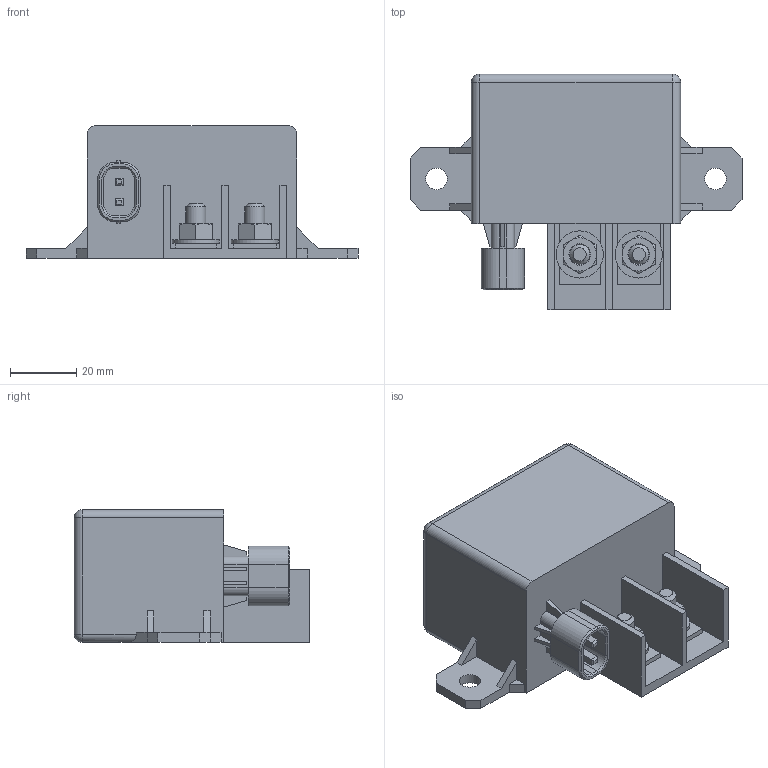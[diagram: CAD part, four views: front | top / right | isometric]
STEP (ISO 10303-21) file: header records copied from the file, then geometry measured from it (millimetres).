
FILE_DESCRIPTION(/* description */ ('STEP AP214'),/* implementation_level */ '2;1');
FILE_NAME(/* name */ '60789f0a2fa3e61176146d63',/* time_stamp */ '2021-04-15T20:16:11+00:00',/* author */ (''),/* organization */ (''),/* preprocessor_version */ 'ST-DEVELOPER v18.1',/* originating_system */ ' ',/* authorisation */ ' ');
FILE_SCHEMA (('AUTOMOTIVE_DESIGN {1 0 10303 214 3 1 1}'));
Length unit declared in the file: metre
Products named in the file (9): 901087; Nut M6 Flange; Part 2; Part 1; Part 7; Part 6; Part 5; Part 4; Part 3
Assembly tree (9 placements, depth 2):
  901087
    Nut M6 Flange  x2
    Part 2
    Part 1
    Part 7
    Part 6
    Part 5
    Part 4
    Part 3
Bounding box: 100 x 71 x 40 mm (x, y, z)
Volume: 125295.9 mm3; surface area: 25505 mm2
Topology: 9 solids, 9 shells, 207 faces, 506 edges, 318 vertices
Faces by surface type: plane 143, cylinder 30, cone 26, bspline 4, sphere 4
Full cylindrical faces by diameter (mm): 6 x2, 6.5 x2, 14.2 x2
Entity records: 6186 total; most frequent: CARTESIAN_POINT 1642, ORIENTED_EDGE 880, DIRECTION 878, EDGE_CURVE 440, LINE 348, VECTOR 348, VERTEX_POINT 284, AXIS2_PLACEMENT_3D 265
